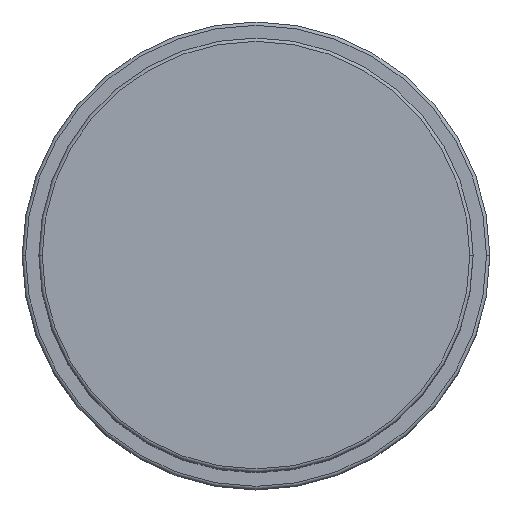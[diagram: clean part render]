
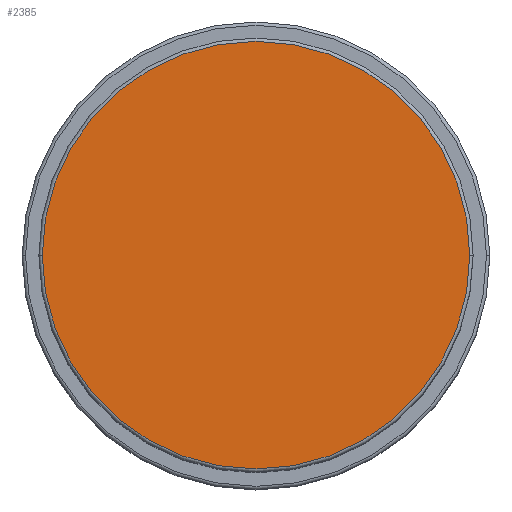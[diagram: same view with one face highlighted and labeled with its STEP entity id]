
A CAD part, top view. The second image highlights one B-rep face of the part: STEP entity #2385.
In plain terms, the highlighted planar face has unit normal (0, 0, 1).
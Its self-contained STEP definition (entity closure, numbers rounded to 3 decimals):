
#235 = PLANE ( 'NONE',  #4912 ) ;
#303 = DIRECTION ( 'NONE',  ( 0., 0., 1. ) ) ;
#430 = VERTEX_POINT ( 'NONE', #1361 ) ;
#1171 = ORIENTED_EDGE ( 'NONE', *, *, #4891, .T. ) ;
#1361 = CARTESIAN_POINT ( 'NONE',  ( -32., 0., 87. ) ) ;
#1640 = EDGE_CURVE ( 'NONE', #430, #4196, #2949, .T. ) ;
#1656 = CIRCLE ( 'NONE', #3339, 32. ) ;
#1831 = CARTESIAN_POINT ( 'NONE',  ( 0., 0., 87. ) ) ;
#1932 = CARTESIAN_POINT ( 'NONE',  ( 0., 0., 87. ) ) ;
#2126 = CARTESIAN_POINT ( 'NONE',  ( 32., 0., 87. ) ) ;
#2385 = ADVANCED_FACE ( 'NONE', ( #2478 ), #235, .T. ) ;
#2478 = FACE_OUTER_BOUND ( 'NONE', #2966, .T. ) ;
#2688 = DIRECTION ( 'NONE',  ( 1., 0., 0. ) ) ;
#2712 = AXIS2_PLACEMENT_3D ( 'NONE', #1831, #4290, #2688 ) ;
#2722 = DIRECTION ( 'NONE',  ( 0., 0., 1. ) ) ;
#2949 = CIRCLE ( 'NONE', #2712, 32. ) ;
#2966 = EDGE_LOOP ( 'NONE', ( #1171, #5083 ) ) ;
#3161 = CARTESIAN_POINT ( 'NONE',  ( 0., 0., 87. ) ) ;
#3173 = DIRECTION ( 'NONE',  ( 1., 0., 0. ) ) ;
#3339 = AXIS2_PLACEMENT_3D ( 'NONE', #1932, #303, #3173 ) ;
#4196 = VERTEX_POINT ( 'NONE', #2126 ) ;
#4290 = DIRECTION ( 'NONE',  ( 0., 0., 1. ) ) ;
#4891 = EDGE_CURVE ( 'NONE', #4196, #430, #1656, .T. ) ;
#4912 = AXIS2_PLACEMENT_3D ( 'NONE', #3161, #2722, #5259 ) ;
#5083 = ORIENTED_EDGE ( 'NONE', *, *, #1640, .T. ) ;
#5259 = DIRECTION ( 'NONE',  ( 1., 0., 0. ) ) ;
